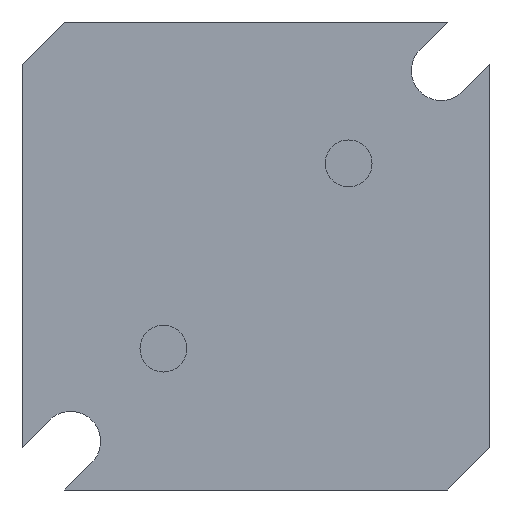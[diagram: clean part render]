
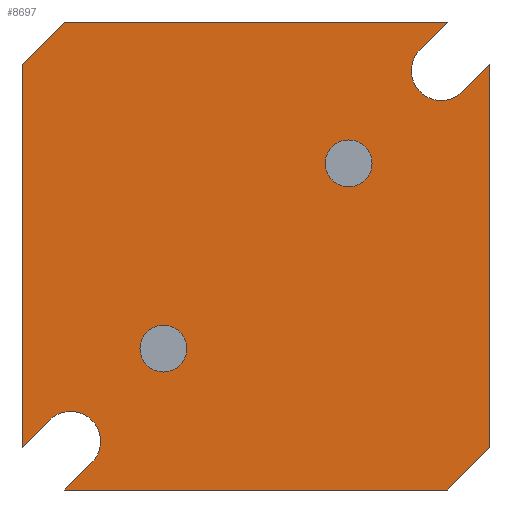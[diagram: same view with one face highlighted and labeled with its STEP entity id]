
A CAD part, front view. The second image highlights one B-rep face of the part: STEP entity #8697.
In plain terms, the highlighted planar face has unit normal (0, -1, 0).
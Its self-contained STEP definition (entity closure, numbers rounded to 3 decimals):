
#10 = VECTOR ( 'NONE', #7975, 1000. ) ;
#89 = CARTESIAN_POINT ( 'NONE',  ( 168.935, 0., -82.317 ) ) ;
#128 = CARTESIAN_POINT ( 'NONE',  ( 165.116, 0., -89.649 ) ) ;
#256 = AXIS2_PLACEMENT_3D ( 'NONE', #23656, #7370, #28323 ) ;
#274 = DIRECTION ( 'NONE',  ( 0., 1., 0. ) ) ;
#926 = DIRECTION ( 'NONE',  ( 0., 0., -1. ) ) ;
#1378 = CARTESIAN_POINT ( 'NONE',  ( 178.835, 0., -73.668 ) ) ;
#1490 = DIRECTION ( 'NONE',  ( 0., 1., 0. ) ) ;
#1604 = LINE ( 'NONE', #22444, #23155 ) ;
#1745 = DIRECTION ( 'NONE',  ( 0., 0., 1. ) ) ;
#2121 = VECTOR ( 'NONE', #4959, 1000. ) ;
#2537 = FACE_BOUND ( 'NONE', #4678, .T. ) ;
#2711 = CARTESIAN_POINT ( 'NONE',  ( 184.916, 0., -69.849 ) ) ;
#2858 = EDGE_CURVE ( 'NONE', #15360, #24844, #21741, .T. ) ;
#3045 = CARTESIAN_POINT ( 'NONE',  ( 178.835, 0., -73.668 ) ) ;
#3075 = VERTEX_POINT ( 'NONE', #25388 ) ;
#3478 = DIRECTION ( 'NONE',  ( 0., -1., 0. ) ) ;
#3487 = DIRECTION ( 'NONE',  ( 0.707, 0., 0.707 ) ) ;
#4420 = ORIENTED_EDGE ( 'NONE', *, *, #6745, .F. ) ;
#4552 = VERTEX_POINT ( 'NONE', #21860 ) ;
#4674 = EDGE_CURVE ( 'NONE', #22357, #28767, #19143, .T. ) ;
#4678 = EDGE_LOOP ( 'NONE', ( #5711, #15632 ) ) ;
#4838 = CARTESIAN_POINT ( 'NONE',  ( 183.785, 0., -68.718 ) ) ;
#4959 = DIRECTION ( 'NONE',  ( -0.707, 0., -0.707 ) ) ;
#5073 = CARTESIAN_POINT ( 'NONE',  ( 163.647, 0., -91.118 ) ) ;
#5255 = VECTOR ( 'NONE', #926, 1000. ) ;
#5711 = ORIENTED_EDGE ( 'NONE', *, *, #29731, .T. ) ;
#5758 = AXIS2_PLACEMENT_3D ( 'NONE', #3045, #12252, #21434 ) ;
#6044 = ORIENTED_EDGE ( 'NONE', *, *, #4674, .F. ) ;
#6488 = CARTESIAN_POINT ( 'NONE',  ( 163.647, 0., -91.118 ) ) ;
#6665 = DIRECTION ( 'NONE',  ( 0., 1., 0. ) ) ;
#6745 = EDGE_CURVE ( 'NONE', #7095, #15360, #17161, .T. ) ;
#7095 = VERTEX_POINT ( 'NONE', #7668 ) ;
#7344 = ORIENTED_EDGE ( 'NONE', *, *, #2858, .F. ) ;
#7366 = LINE ( 'NONE', #5073, #26419 ) ;
#7370 = DIRECTION ( 'NONE',  ( 0., -1., 0. ) ) ;
#7586 = AXIS2_PLACEMENT_3D ( 'NONE', #10594, #3478, #17371 ) ;
#7668 = CARTESIAN_POINT ( 'NONE',  ( 163.647, 0., -66.118 ) ) ;
#7893 = LINE ( 'NONE', #26023, #5255 ) ;
#7975 = DIRECTION ( 'NONE',  ( 1., 0., 0. ) ) ;
#8195 = VERTEX_POINT ( 'NONE', #89 ) ;
#8219 = DIRECTION ( 'NONE',  ( 0., 0., 1. ) ) ;
#8697 = ADVANCED_FACE ( 'NONE', ( #2537, #11312, #20939 ), #27617, .F. ) ;
#8775 = DIRECTION ( 'NONE',  ( 0.707, 0., 0.707 ) ) ;
#8787 = ORIENTED_EDGE ( 'NONE', *, *, #15089, .F. ) ;
#9229 = VERTEX_POINT ( 'NONE', #19672 ) ;
#9651 = EDGE_CURVE ( 'NONE', #24240, #8195, #20568, .T. ) ;
#9960 = CIRCLE ( 'NONE', #25397, 1.25 ) ;
#10372 = ORIENTED_EDGE ( 'NONE', *, *, #9651, .T. ) ;
#10517 = CIRCLE ( 'NONE', #27369, 1.25 ) ;
#10594 = CARTESIAN_POINT ( 'NONE',  ( 183.785, 0., -68.718 ) ) ;
#10722 = CARTESIAN_POINT ( 'NONE',  ( 161.385, 0., -88.855 ) ) ;
#11311 = AXIS2_PLACEMENT_3D ( 'NONE', #18379, #18061, #1745 ) ;
#11312 = FACE_BOUND ( 'NONE', #23306, .T. ) ;
#11405 = AXIS2_PLACEMENT_3D ( 'NONE', #24297, #1490, #24763 ) ;
#11606 = CARTESIAN_POINT ( 'NONE',  ( 186.385, 0., -88.855 ) ) ;
#11611 = CARTESIAN_POINT ( 'NONE',  ( 184.122, 0., -91.118 ) ) ;
#11885 = DIRECTION ( 'NONE',  ( 0., 0., 1. ) ) ;
#11960 = ORIENTED_EDGE ( 'NONE', *, *, #15752, .F. ) ;
#12156 = CARTESIAN_POINT ( 'NONE',  ( 182.653, 0., -67.586 ) ) ;
#12252 = DIRECTION ( 'NONE',  ( 0., 1., 0. ) ) ;
#12293 = VERTEX_POINT ( 'NONE', #19364 ) ;
#12407 = EDGE_CURVE ( 'NONE', #3075, #14793, #7893, .T. ) ;
#12554 = ORIENTED_EDGE ( 'NONE', *, *, #16997, .F. ) ;
#12624 = EDGE_CURVE ( 'NONE', #20084, #19932, #14147, .T. ) ;
#13016 = ORIENTED_EDGE ( 'NONE', *, *, #12624, .F. ) ;
#13215 = CIRCLE ( 'NONE', #11311, 1.6 ) ;
#14038 = DIRECTION ( 'NONE',  ( 0., 0., 1. ) ) ;
#14147 = LINE ( 'NONE', #18972, #26949 ) ;
#14655 = VECTOR ( 'NONE', #17815, 1000. ) ;
#14670 = DIRECTION ( 'NONE',  ( -0.707, 0., -0.707 ) ) ;
#14751 = AXIS2_PLACEMENT_3D ( 'NONE', #4838, #6665, #14038 ) ;
#14793 = VERTEX_POINT ( 'NONE', #11606 ) ;
#14823 = LINE ( 'NONE', #24478, #28909 ) ;
#15089 = EDGE_CURVE ( 'NONE', #20226, #12293, #13215, .T. ) ;
#15360 = VERTEX_POINT ( 'NONE', #25624 ) ;
#15531 = LINE ( 'NONE', #10722, #14655 ) ;
#15632 = ORIENTED_EDGE ( 'NONE', *, *, #26001, .T. ) ;
#15752 = EDGE_CURVE ( 'NONE', #12293, #20084, #15531, .T. ) ;
#15876 = EDGE_CURVE ( 'NONE', #14793, #17455, #20661, .T. ) ;
#15899 = CIRCLE ( 'NONE', #5758, 1.25 ) ;
#16559 = CARTESIAN_POINT ( 'NONE',  ( 168.935, 0., -83.567 ) ) ;
#16997 = EDGE_CURVE ( 'NONE', #17455, #20161, #24618, .T. ) ;
#17121 = EDGE_CURVE ( 'NONE', #24844, #22357, #22405, .T. ) ;
#17161 = LINE ( 'NONE', #19309, #10 ) ;
#17371 = DIRECTION ( 'NONE',  ( 0., 0., 1. ) ) ;
#17378 = CARTESIAN_POINT ( 'NONE',  ( 184.122, 0., -66.118 ) ) ;
#17455 = VERTEX_POINT ( 'NONE', #22711 ) ;
#17815 = DIRECTION ( 'NONE',  ( -0.707, 0., -0.707 ) ) ;
#18061 = DIRECTION ( 'NONE',  ( 0., -1., 0. ) ) ;
#18379 = CARTESIAN_POINT ( 'NONE',  ( 163.985, 0., -88.518 ) ) ;
#18400 = CARTESIAN_POINT ( 'NONE',  ( 163.647, 0., -91.118 ) ) ;
#18442 = ORIENTED_EDGE ( 'NONE', *, *, #20882, .F. ) ;
#18972 = CARTESIAN_POINT ( 'NONE',  ( 161.385, 0., -88.855 ) ) ;
#19143 = CIRCLE ( 'NONE', #7586, 1.6 ) ;
#19302 = DIRECTION ( 'NONE',  ( 0., 0., 1. ) ) ;
#19309 = CARTESIAN_POINT ( 'NONE',  ( 184.122, 0., -66.118 ) ) ;
#19364 = CARTESIAN_POINT ( 'NONE',  ( 162.853, 0., -87.386 ) ) ;
#19672 = CARTESIAN_POINT ( 'NONE',  ( 178.835, 0., -72.418 ) ) ;
#19932 = VERTEX_POINT ( 'NONE', #28878 ) ;
#20084 = VERTEX_POINT ( 'NONE', #23993 ) ;
#20161 = VERTEX_POINT ( 'NONE', #18400 ) ;
#20226 = VERTEX_POINT ( 'NONE', #128 ) ;
#20355 = CARTESIAN_POINT ( 'NONE',  ( 168.935, 0., -84.817 ) ) ;
#20380 = CARTESIAN_POINT ( 'NONE',  ( 183.785, 0., -70.318 ) ) ;
#20568 = CIRCLE ( 'NONE', #11405, 1.25 ) ;
#20661 = LINE ( 'NONE', #11611, #2121 ) ;
#20882 = EDGE_CURVE ( 'NONE', #20161, #20226, #7366, .T. ) ;
#20939 = FACE_OUTER_BOUND ( 'NONE', #28751, .T. ) ;
#21434 = DIRECTION ( 'NONE',  ( 0., 0., 1. ) ) ;
#21454 = VECTOR ( 'NONE', #29427, 1000. ) ;
#21741 = LINE ( 'NONE', #17378, #29677 ) ;
#21860 = CARTESIAN_POINT ( 'NONE',  ( 178.835, 0., -74.918 ) ) ;
#21888 = DIRECTION ( 'NONE',  ( 0., 1., 0. ) ) ;
#22357 = VERTEX_POINT ( 'NONE', #20380 ) ;
#22405 = CIRCLE ( 'NONE', #256, 1.6 ) ;
#22444 = CARTESIAN_POINT ( 'NONE',  ( 161.385, 0., -68.38 ) ) ;
#22711 = CARTESIAN_POINT ( 'NONE',  ( 184.122, 0., -91.118 ) ) ;
#23155 = VECTOR ( 'NONE', #8775, 1000. ) ;
#23306 = EDGE_LOOP ( 'NONE', ( #28288, #10372 ) ) ;
#23656 = CARTESIAN_POINT ( 'NONE',  ( 183.785, 0., -68.718 ) ) ;
#23778 = ORIENTED_EDGE ( 'NONE', *, *, #26844, .F. ) ;
#23993 = CARTESIAN_POINT ( 'NONE',  ( 161.385, 0., -88.855 ) ) ;
#24240 = VERTEX_POINT ( 'NONE', #20355 ) ;
#24297 = CARTESIAN_POINT ( 'NONE',  ( 168.935, 0., -83.567 ) ) ;
#24478 = CARTESIAN_POINT ( 'NONE',  ( 186.385, 0., -68.38 ) ) ;
#24618 = LINE ( 'NONE', #6488, #21454 ) ;
#24720 = ORIENTED_EDGE ( 'NONE', *, *, #26422, .F. ) ;
#24763 = DIRECTION ( 'NONE',  ( 0., 0., 1. ) ) ;
#24844 = VERTEX_POINT ( 'NONE', #12156 ) ;
#25388 = CARTESIAN_POINT ( 'NONE',  ( 186.385, 0., -68.38 ) ) ;
#25397 = AXIS2_PLACEMENT_3D ( 'NONE', #16559, #274, #19302 ) ;
#25624 = CARTESIAN_POINT ( 'NONE',  ( 184.122, 0., -66.118 ) ) ;
#26001 = EDGE_CURVE ( 'NONE', #4552, #9229, #15899, .T. ) ;
#26023 = CARTESIAN_POINT ( 'NONE',  ( 186.385, 0., -88.855 ) ) ;
#26034 = ORIENTED_EDGE ( 'NONE', *, *, #15876, .F. ) ;
#26419 = VECTOR ( 'NONE', #28033, 1000. ) ;
#26422 = EDGE_CURVE ( 'NONE', #28767, #3075, #14823, .T. ) ;
#26844 = EDGE_CURVE ( 'NONE', #19932, #7095, #1604, .T. ) ;
#26949 = VECTOR ( 'NONE', #11885, 1000. ) ;
#27369 = AXIS2_PLACEMENT_3D ( 'NONE', #1378, #21888, #8219 ) ;
#27529 = ORIENTED_EDGE ( 'NONE', *, *, #17121, .F. ) ;
#27617 = PLANE ( 'NONE',  #14751 ) ;
#28033 = DIRECTION ( 'NONE',  ( 0.707, 0., 0.707 ) ) ;
#28288 = ORIENTED_EDGE ( 'NONE', *, *, #28492, .T. ) ;
#28323 = DIRECTION ( 'NONE',  ( 0., 0., 1. ) ) ;
#28492 = EDGE_CURVE ( 'NONE', #8195, #24240, #9960, .T. ) ;
#28751 = EDGE_LOOP ( 'NONE', ( #12554, #26034, #29269, #24720, #6044, #27529, #7344, #4420, #23778, #13016, #11960, #8787, #18442 ) ) ;
#28767 = VERTEX_POINT ( 'NONE', #2711 ) ;
#28878 = CARTESIAN_POINT ( 'NONE',  ( 161.385, 0., -68.38 ) ) ;
#28909 = VECTOR ( 'NONE', #3487, 1000. ) ;
#29269 = ORIENTED_EDGE ( 'NONE', *, *, #12407, .F. ) ;
#29427 = DIRECTION ( 'NONE',  ( -1., 0., 0. ) ) ;
#29677 = VECTOR ( 'NONE', #14670, 1000. ) ;
#29731 = EDGE_CURVE ( 'NONE', #9229, #4552, #10517, .T. ) ;
